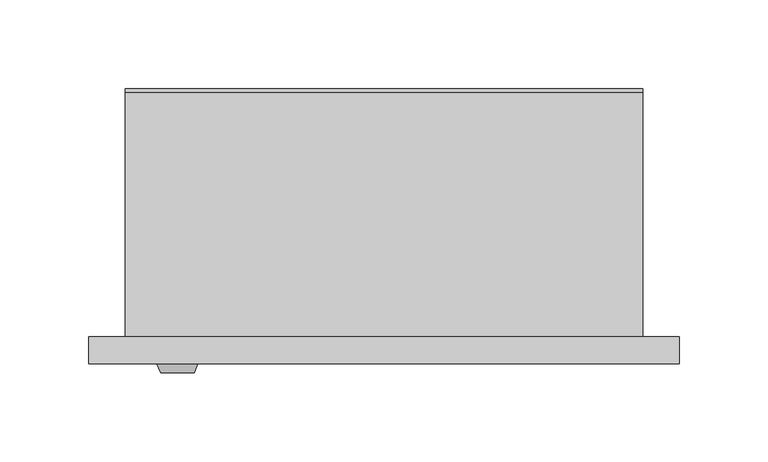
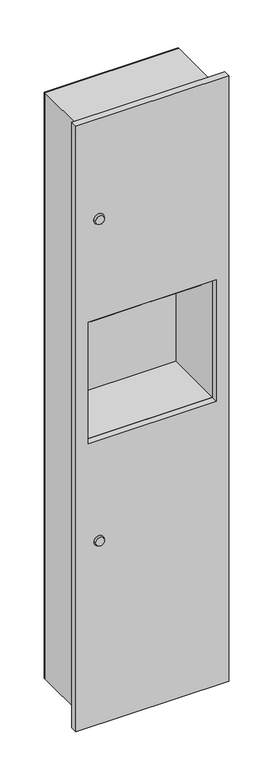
"""IFC4 building model written with IfcOpenShell, lengths in millimetres: proxy geometry, Paper Dispenser and Waste_Metlam_Recessed_22L Waste : 333w x 155d x 1397h (ML707REC_MK2)."""

import ifcopenshell
import ifcopenshell.guid

model = None  # the IFC model being written
_history = None  # IfcOwnerHistory: only IFC2X3 demands one
_inside = {}  # id of a spatial element -> (the spatial element, [elements in it])
_under = {}  # id of a project, library or spatial element -> (it, [spatial elements below it])
_declared = {}  # id of a project -> (the project, [libraries it declares])
_typed = {}  # id of a type object -> (the type object, [elements of that type])
_made_of = {}  # id of a material, layer set ... -> (it, [elements and type objects made of it])


def new_model(schema):
    """Start an empty IFC model of exactly this schema.

    Asked for "IFC4X3", IfcOpenShell would pick the latest addendum, in which some entities
    have other attributes; the version numbers below select the first issue.
    IFC2X3 requires an IfcOwnerHistory on every rooted entity: one is made here for all.
    """
    global model, _history
    if schema == "IFC4X3":
        model = ifcopenshell.file(schema_version=(4, 3, 0, 0))
    else:
        model = ifcopenshell.file(schema=schema)
    _inside.clear()
    _under.clear()
    _declared.clear()
    _typed.clear()
    _made_of.clear()
    _history = None
    if model.schema == "IFC2X3":
        org = make("IfcOrganization", Name="unknown")
        user = make(
            "IfcPersonAndOrganization",
            ThePerson=make("IfcPerson", FamilyName="unknown"),
            TheOrganization=org,
        )
        app = make(
            "IfcApplication",
            ApplicationDeveloper=org,
            Version="unknown",
            ApplicationFullName="unknown",
            ApplicationIdentifier="unknown",
        )
        _history = make(
            "IfcOwnerHistory",
            OwningUser=user,
            OwningApplication=app,
            ChangeAction="ADDED",
            CreationDate=0,
        )
    return model


def make(cls, **values):
    """One entity of the class cls with the attributes given. An attribute that is None is left unset."""
    return model.create_entity(
        cls, **{name: value for name, value in values.items() if value is not None}
    )


def rooted(cls, **values):
    """An entity with a GlobalId (a new one), such as an element, a storey or a relation."""
    return make(cls, GlobalId=ifcopenshell.guid.new(), OwnerHistory=_history, **values)


def si_unit(unit_type, name, prefix=None):
    """IfcSIUnit, for example si_unit("LENGTHUNIT", "METRE", prefix="MILLI")."""
    return make("IfcSIUnit", UnitType=unit_type, Prefix=prefix, Name=name)


def assignment(units):
    """IfcUnitAssignment: the units of a project."""
    return None if units is None else make("IfcUnitAssignment", Units=units)


def point(xyz):
    """IfcCartesianPoint."""
    return None if xyz is None else make("IfcCartesianPoint", Coordinates=xyz)


def direction(xyz):
    """IfcDirection."""
    return None if xyz is None else make("IfcDirection", DirectionRatios=xyz)


def frame(location, z_axis=None, x_axis=None):
    """IfcAxis2Placement3D, a coordinate frame: its origin and axes. An axis left out is left unset."""
    return make(
        "IfcAxis2Placement3D",
        Location=point(location),
        Axis=direction(z_axis),
        RefDirection=direction(x_axis),
    )


def origin():
    """The frame at (0, 0, 0) with its axes left unset."""
    return frame((0.0, 0.0, 0.0))


def place(relative_to, where):
    """IfcLocalPlacement: puts the frame where relative to a parent placement (None: the world)."""
    return make(
        "IfcLocalPlacement", PlacementRelTo=relative_to, RelativePlacement=where
    )


def context(
    kind, dimensions, precision=None, world=None, true_north=None, identifier=None
):
    """IfcGeometricRepresentationContext, for example the 3D "Model" context."""
    return make(
        "IfcGeometricRepresentationContext",
        ContextIdentifier=identifier,
        ContextType=kind,
        CoordinateSpaceDimension=dimensions,
        Precision=precision,
        WorldCoordinateSystem=world,
        TrueNorth=true_north,
    )


def project(units=None, contexts=None):
    """IfcProject with its units and contexts."""
    return rooted(
        "IfcProject",
        Name="project",
        RepresentationContexts=contexts,
        UnitsInContext=assignment(units),
    )


def spatial(cls, under=None, at=None, **own):
    """A site, building, storey or space (cls), placed at a placement, below another one or the project."""
    s = rooted(cls, ObjectPlacement=at, **own)
    if under is not None:
        _under.setdefault(under.id(), (under, []))[1].append(s)
    return s


def polyline(points):
    """IfcPolyline through the points."""
    return make("IfcPolyline", Points=[point(p) for p in points])


def circle_curve(where, radius):
    """IfcCircle in the frame where."""
    return make("IfcCircle", Position=where, Radius=radius)


def outline(outer, holes=None, kind="AREA"):
    """IfcArbitraryClosedProfileDef: a profile drawn as a closed curve; with holes, ...WithVoids."""
    if holes is None:
        return make("IfcArbitraryClosedProfileDef", ProfileType=kind, OuterCurve=outer)
    return make(
        "IfcArbitraryProfileDefWithVoids",
        ProfileType=kind,
        OuterCurve=outer,
        InnerCurves=holes,
    )


def extrude(swept, where, along, depth):
    """IfcExtrudedAreaSolid: the profile swept, set in the frame where, extruded along a direction by depth."""
    return make(
        "IfcExtrudedAreaSolid",
        SweptArea=swept,
        Position=where,
        ExtrudedDirection=direction(along),
        Depth=depth,
    )


def shape(context_of_items, identifier, shape_type, items):
    """IfcShapeRepresentation: the items that make up one representation, for example the "Body"."""
    return make(
        "IfcShapeRepresentation",
        ContextOfItems=context_of_items,
        RepresentationIdentifier=identifier,
        RepresentationType=shape_type,
        Items=items,
    )


def source(mapping_origin, context_of_items, identifier, shape_type, items):
    """IfcRepresentationMap: a shape defined once, which mapped items show again and again."""
    return make(
        "IfcRepresentationMap",
        MappingOrigin=mapping_origin,
        MappedRepresentation=shape(context_of_items, identifier, shape_type, items),
    )


def transform(
    local_origin,
    x_axis=None,
    y_axis=None,
    z_axis=None,
    scale=None,
    scale2=None,
    scale3=None,
    uniform=True,
):
    """IfcCartesianTransformationOperator3D, or its non-uniform kind. x_axis, y_axis, z_axis: its Axis1, 2, 3."""
    if uniform:
        return make(
            "IfcCartesianTransformationOperator3D",
            Axis1=direction(x_axis),
            Axis2=direction(y_axis),
            LocalOrigin=point(local_origin),
            Scale=scale,
            Axis3=direction(z_axis),
        )
    return make(
        "IfcCartesianTransformationOperator3DnonUniform",
        Axis1=direction(x_axis),
        Axis2=direction(y_axis),
        LocalOrigin=point(local_origin),
        Scale=scale,
        Axis3=direction(z_axis),
        Scale2=scale2,
        Scale3=scale3,
    )


def mapped(mapping_source, mapping_target):
    """IfcMappedItem: shows the shape of a source again, moved by a transform."""
    return make(
        "IfcMappedItem", MappingSource=mapping_source, MappingTarget=mapping_target
    )


def made_of(thing, what):
    """Note that an element or type object is made of a material, layer set ...; save() writes the relation."""
    if what is not None:
        _made_of.setdefault(what.id(), (what, []))[1].append(thing)
    return thing


def element(
    cls,
    number,
    at=None,
    inside=None,
    cuts=None,
    type_object=None,
    material=None,
    context=None,
    identifier="Body",
    shape_type=None,
    held_by="IfcProductDefinitionShape",
    body=None,
    shapes=None,
    **own,
):
    """One element of the class cls, such as IfcWall. Its Tag is "e" and its number.

    at: its placement. inside: the storey or other place that contains it. cuts: it is an
    opening in that element (IfcRelVoidsElement). A single representation is given by context,
    identifier, shape_type and body (its items); several are given by shapes. held_by: the class
    of the entity that holds the representations. save() writes the other relations.
    """
    e = rooted(cls, Tag="e%d" % number, ObjectPlacement=at, **own)
    if body is not None:
        shapes = [shape(context, identifier, shape_type, body)]
    if shapes is not None:
        e.Representation = make(held_by, Representations=shapes)
    if inside is not None:
        _inside.setdefault(inside.id(), (inside, []))[1].append(e)
    if cuts is not None:
        rooted(
            "IfcRelVoidsElement", RelatingBuildingElement=cuts, RelatedOpeningElement=e
        )
    if type_object is not None:
        _typed.setdefault(type_object.id(), (type_object, []))[1].append(e)
    return made_of(e, material)


def aggregate(whole, parts):
    """IfcRelAggregates: a whole, such as a stair, and the parts it consists of."""
    return rooted("IfcRelAggregates", RelatingObject=whole, RelatedObjects=parts)


def save(model, path):
    """Write the relations noted so far, then the file.

    IfcRelAggregates (storeys below a building ...), IfcRelContainedInSpatialStructure (elements
    in a storey), IfcRelDefinesByType, IfcRelAssociatesMaterial and IfcRelDeclares: one each for
    every whole, place, type object, material and project.
    """
    for whole, parts in _under.values():
        aggregate(whole, parts)
    for where, things in _inside.values():
        rooted(
            "IfcRelContainedInSpatialStructure",
            RelatedElements=things,
            RelatingStructure=where,
        )
    for kind, things in _typed.values():
        rooted("IfcRelDefinesByType", RelatedObjects=things, RelatingType=kind)
    for what, things in _made_of.values():
        rooted("IfcRelAssociatesMaterial", RelatedObjects=things, RelatingMaterial=what)
    for by, libraries in _declared.values():
        rooted("IfcRelDeclares", RelatingContext=by, RelatedDefinitions=libraries)
    model.write(path)


def plane_surface(at):
    """IfcPlane: the flat surface through the origin of the frame at, square to its z axis."""
    return make("IfcPlane", Position=at)


def revolved_surface(curve, axis_point, axis_direction):
    """IfcSurfaceOfRevolution: the curve turned about the line through axis_point along axis_direction."""
    return make(
        "IfcSurfaceOfRevolution",
        SweptCurve=make("IfcArbitraryOpenProfileDef", ProfileType="CURVE", Curve=curve),
        AxisPosition=make("IfcAxis1Placement", Location=point(axis_point), Axis=direction(axis_direction)),
    )


def advanced_brep(points, edges, surfaces, faces):
    """IfcAdvancedBrep: a solid bounded by faces that lie on surfaces and meet in shared edges.

    An edge is (start, end): straight between two places in points (the first is 0);
    or (start, end, curve); or (start, end, curve, False) where it runs against its curve.
    A face is (place in surfaces, loops), or (place, loops, False) where it looks against
    its surface's normal. A loop lists edges by number (the first is 1), with a minus sign
    where the edge is run from its end to its start. The first loop is the outer one.
    """
    corners = [point(p) for p in points]
    vertices = [make("IfcVertexPoint", VertexGeometry=c) for c in corners]
    made = []
    for start, end, *more in edges:
        made.append(
            make(
                "IfcEdgeCurve",
                EdgeStart=vertices[start],
                EdgeEnd=vertices[end],
                EdgeGeometry=more[0] if more else make("IfcPolyline", Points=[corners[start], corners[end]]),
                SameSense=more[1] if len(more) > 1 else True,
            )
        )
    hull = []
    for where, loops, *sense in faces:
        bounds = []
        for j, loop in enumerate(loops):
            ring = [make("IfcOrientedEdge", EdgeElement=made[abs(k) - 1], Orientation=k > 0) for k in loop]
            bounds.append(
                make(
                    "IfcFaceOuterBound" if j == 0 else "IfcFaceBound",
                    Bound=make("IfcEdgeLoop", EdgeList=ring),
                    Orientation=True,
                )
            )
        hull.append(make("IfcAdvancedFace", Bounds=bounds, FaceSurface=surfaces[where], SameSense=sense[0] if sense else True))
    return make("IfcAdvancedBrep", Outer=make("IfcClosedShell", CfsFaces=hull))


def specialty_equipment_2e20168a(model_context):
    return source(origin(), model_context, "Body", "SolidModel", [
        extrude(outline(polyline([(1336.6, 141.6), (1336.6, -141.6), (1053.4, -141.6), (1053.4, 141.6), (1336.6, 141.6)]), holes=[polyline([(1335.0, 140.0), (1055.0, 140.0), (1055.0, -140.0), (1335.0, -140.0), (1335.0, 140.0)])]), frame((0.0, -140.0, 0.0), z_axis=(0.0, 1.0, 0.0), x_axis=(0.0, 0.0, 1.0)), (0.0, 0.0, 1.0), 138.0),
        extrude(outline(polyline([(1335.0, 120.0), (1335.0, -120.0), (1315.0, -120.0), (1315.0, -10.0), (1325.0, -10.0), (1325.0, 10.0), (1315.0, 10.0), (1315.0, 120.0), (1335.0, 120.0)])), frame((0.0, -130.0, 0.0), z_axis=(0.0, 1.0, 0.0), x_axis=(0.0, 0.0, 1.0)), (0.0, 0.0, 1.0), 10.0),
        extrude(outline(polyline([(146.0, -2.0), (-146.0, -2.0), (-146.0, 0.0), (146.0, 0.0), (146.0, -2.0)])), frame((0.0, 0.0, 422.5), z_axis=(0.0, 0.0, 1.0), x_axis=(1.0, 0.0, 0.0)), (0.0, 0.0, 1.0), 1352.0),
        extrude(outline(polyline([(1774.5, -146.0), (422.5, -146.0), (422.5, 146.0), (1774.5, 146.0), (1774.5, -146.0)]), holes=[polyline([(1772.5, -144.0), (1772.5, 144.0), (424.5, 144.0), (424.5, -144.0), (1772.5, -144.0)])]), frame((0.0, -140.0, 0.0), z_axis=(0.0, 1.0, 0.0), x_axis=(0.0, 0.0, 1.0)), (0.0, 0.0, 1.0), 140.0),
        advanced_brep(
        [(166.5, -155.0, 400.0), (166.5, -155.0, 1797.0), (-166.5, -155.0, 1797.0), (-166.5, -155.0, 400.0), (140.0, -155.0, 1335.0), (140.0, -155.0, 1055.0), (-140.0, -155.0, 1055.0), (-140.0, -155.0, 1335.0), (-105.0, -155.0, 1566.0), (-128.0, -155.0, 1566.0), (166.5, -140.0, 400.0), (-166.5, -140.0, 400.0), (-166.5, -140.0, 1797.0), (166.5, -140.0, 1797.0), (140.0, -140.0, 1335.0), (-140.0, -140.0, 1335.0), (-140.0, -140.0, 1055.0), (140.0, -140.0, 1055.0), (-126.0, -160.0, 1566.0), (-107.0, -160.0, 1566.0)],
        [
            (0, 1),
            (1, 2),
            (2, 3),
            (3, 0),
            (4, 5),
            (5, 6),
            (6, 7),
            (7, 4),
            (8, 9, circle_curve(frame((-116.5, -155.0, 1566.0), z_axis=(0.0, 1.0, 3.5734615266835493e-12), x_axis=(-1.0, 0.0, 0.0)), 11.5)),
            (9, 8, circle_curve(frame((-116.5, -155.0, 1566.0), z_axis=(0.0, 1.0, 3.5734615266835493e-12), x_axis=(1.0, 0.0, 0.0)), 11.5)),
            (10, 11),
            (11, 12),
            (12, 13),
            (13, 10),
            (14, 15),
            (15, 16),
            (16, 17),
            (17, 14),
            (2, 12),
            (11, 3),
            (10, 0),
            (13, 1),
            (4, 14),
            (17, 5),
            (16, 6),
            (15, 7),
            (18, 19, circle_curve(frame((-116.5, -160.0, 1566.0), z_axis=(0.0, -1.0, -3.5734615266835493e-12), x_axis=(-1.0, 0.0, 0.0)), 9.5)),
            (19, 18, circle_curve(frame((-116.5, -160.0, 1566.0), z_axis=(0.0, -1.0, -3.5734615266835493e-12), x_axis=(1.0, 0.0, 0.0)), 9.5)),
            (18, 9),
            (8, 19),
        ],
        [
            plane_surface(frame((166.5, -155.0, 1797.0), z_axis=(0.0, -1.0, 0.0), x_axis=(0.0, 0.0, 1.0))),
            plane_surface(frame((166.5, -140.0, 1797.0), z_axis=(0.0, 1.0, 0.0), x_axis=(0.0, 0.0, -1.0))),
            plane_surface(frame((-166.5, -155.0, 1797.0), z_axis=(-1.0, 0.0, 0.0), x_axis=(0.0, 1.0, 0.0))),
            plane_surface(frame((-166.5, -155.0, 400.0), z_axis=(0.0, 0.0, -1.0), x_axis=(0.0, 1.0, 0.0))),
            plane_surface(frame((166.5, -155.0, 400.0), z_axis=(1.0, 0.0, 0.0), x_axis=(0.0, 1.0, 0.0))),
            plane_surface(frame((166.5, -155.0, 1797.0), z_axis=(0.0, 0.0, 1.0), x_axis=(0.0, 1.0, 0.0))),
            plane_surface(frame((140.0, -155.0, 1335.0), z_axis=(-1.0, 0.0, 0.0), x_axis=(0.0, 1.0, 0.0))),
            plane_surface(frame((140.0, -155.0, 1055.0), z_axis=(0.0, 0.0, 1.0), x_axis=(0.0, 1.0, 0.0))),
            plane_surface(frame((-140.0, -155.0, 1055.0), z_axis=(1.0, 0.0, 0.0), x_axis=(0.0, 1.0, 0.0))),
            plane_surface(frame((-140.0, -155.0, 1335.0), z_axis=(0.0, 0.0, -1.0), x_axis=(0.0, 1.0, 0.0))),
            plane_surface(frame((-116.5, -160.0, 1566.0), z_axis=(0.0, -1.0, 0.0), x_axis=(0.0, 0.0, -1.0))),
            revolved_surface(polyline([(-126.0, -160.0, 1566.0), (-128.0, -155.0, 1566.0)]), (-116.5, -183.75, 1566.0), (0.0, 1.0, 3.5734615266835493e-12)),
            revolved_surface(polyline([(-107.0, -160.0, 1566.0), (-105.0, -155.0, 1566.0)]), (-116.5, -183.75, 1566.0), (0.0, 1.0, 3.5734615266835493e-12)),
        ],
        [
            (0, [[1, 2, 3, 4], [5, 6, 7, 8], [9, 10]]),
            (1, [[11, 12, 13, 14], [15, 16, 17, 18]]),
            (2, [[-3, 19, -12, 20]]),
            (3, [[-4, -20, -11, 21]]),
            (4, [[-1, -21, -14, 22]]),
            (5, [[-2, -22, -13, -19]]),
            (6, [[-5, 23, -18, 24]]),
            (7, [[-6, -24, -17, 25]]),
            (8, [[-7, -25, -16, 26]]),
            (9, [[-8, -26, -15, -23]]),
            (10, [[27, 28]]),
            (11, [[-27, 29, -9, 30]]),
            (12, [[-28, -30, -10, -29]]),
        ],
    ),
        advanced_brep(
        [(-126.0, -160.0, 824.0), (-107.0, -160.0, 824.0), (-128.0, -155.0, 824.0), (-105.0, -155.0, 824.0)],
        [
            (0, 1, circle_curve(frame((-116.5, -160.0, 824.0), z_axis=(0.0, -1.0, 9.123155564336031e-12), x_axis=(-1.0, 0.0, 0.0)), 9.5)),
            (1, 0, circle_curve(frame((-116.5, -160.0, 824.0), z_axis=(0.0, -1.0, 9.123155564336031e-12), x_axis=(1.0, 0.0, 0.0)), 9.5)),
            (2, 3, circle_curve(frame((-116.5, -155.0, 824.0), z_axis=(0.0, 1.0, -9.123155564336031e-12), x_axis=(1.0, 0.0, 0.0)), 11.5)),
            (3, 2, circle_curve(frame((-116.5, -155.0, 824.0), z_axis=(0.0, 1.0, -9.123155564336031e-12), x_axis=(-1.0, 0.0, 0.0)), 11.5)),
            (3, 1),
            (0, 2),
        ],
        [
            plane_surface(frame((-116.5, -160.0, 824.0), z_axis=(0.0, -1.0, 0.0), x_axis=(0.0, 0.0, -1.0))),
            plane_surface(frame((-116.5, -155.0, 824.0), z_axis=(0.0, 1.0, 0.0), x_axis=(0.0, 0.0, -1.0))),
            revolved_surface(polyline([(-126.0, -160.0, 824.0), (-128.0, -155.0, 824.0)]), (-116.5, -183.75, 824.0), (0.0, 1.0, -9.123155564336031e-12)),
            revolved_surface(polyline([(-107.0, -160.0, 824.0), (-105.0, -155.0, 824.0)]), (-116.5, -183.75, 824.0), (0.0, 1.0, -9.123155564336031e-12)),
        ],
        [
            (0, [[1, 2]]),
            (1, [[3, 4]]),
            (2, [[-4, 5, -1, 6]]),
            (3, [[-3, -6, -2, -5]]),
        ],
    ),
    ])


if __name__ == "__main__":
    model = new_model("IFC4")
    model_context = context("Model", 3, world=origin())
    ifc_project = project(units=[si_unit("LENGTHUNIT", "METRE", prefix="MILLI")], contexts=[model_context])
    site = spatial("IfcSite", under=ifc_project)
    building = spatial("IfcBuilding", under=site)
    placement = place(None, origin())
    specialty_equipment_shape = specialty_equipment_2e20168a(model_context)
    element("IfcBuildingElementProxy", 1, Name="Paper Dispenser and Waste_Metlam_Recessed_22L Waste : 333w x 155d x 1397h (ML707REC_MK2)", ObjectType="Paper Dispenser and Waste_Metlam_Recessed_22L Waste : 333w x 155d x 1397h (ML707REC_MK2)", at=placement, inside=building, context=model_context, shape_type="MappedRepresentation", body=[
        mapped(specialty_equipment_shape, transform((0.0, 0.0, 0.0), x_axis=(1.0, 0.0, 0.0), y_axis=(0.0, 1.0, 0.0), z_axis=(0.0, 0.0, 1.0))),
    ])
    save(model, "model.ifc")
